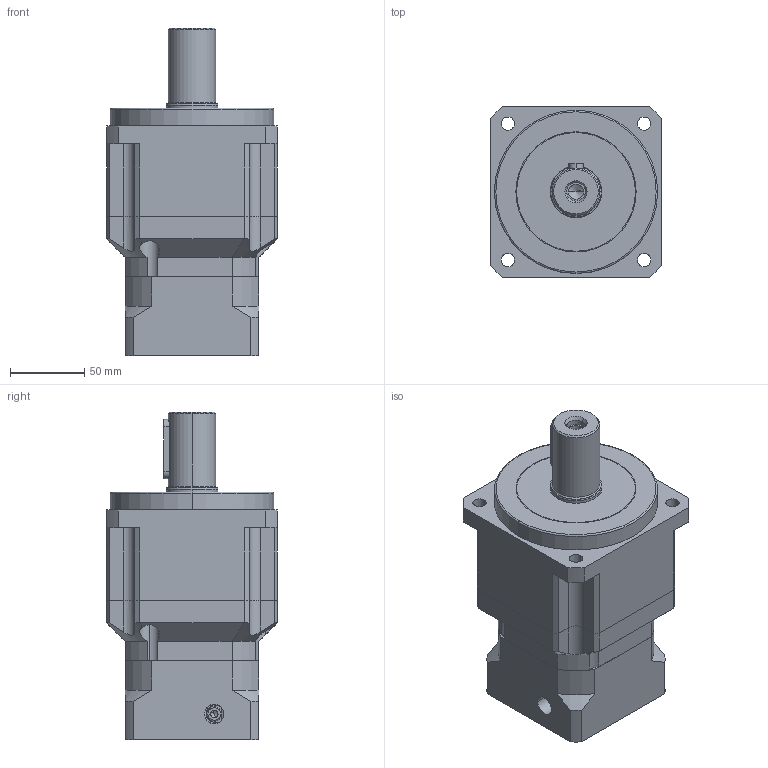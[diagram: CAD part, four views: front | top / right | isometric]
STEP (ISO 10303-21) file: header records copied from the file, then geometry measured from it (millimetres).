
FILE_DESCRIPTION (( 'STEP AP214' ), '1' );
FILE_NAME ('PGH090-L2-[ ]-P2 19-70-90-M6-T bzsc22.STEP', '2024-05-30T05:45:56', ( '' ), ( '' ), 'SwSTEP 2.0', 'SolidWorks 2021', '' );
FILE_SCHEMA (( 'AUTOMOTIVE_DESIGN' ));
Length unit declared in the file: millimetre
Products named in the file (1): PGH090-L2-[ ]-P2 19-70-90-M6-T bzsc22
Bounding box: 115 x 115 x 221 mm (x, y, z)
Volume: 1366432.5 mm3; surface area: 190419.2 mm2
Topology: 14 solids, 14 shells, 1460 faces, 3799 edges, 2462 vertices
Faces by surface type: plane 769, bspline 310, cylinder 259, cone 95, torus 27
Entity records: 59759 total; most frequent: CARTESIAN_POINT 24977, ORIENTED_EDGE 7526, DIRECTION 6067, EDGE_CURVE 3763, VERTEX_POINT 2462, LINE 2393, VECTOR 2393, AXIS2_PLACEMENT_3D 1837
